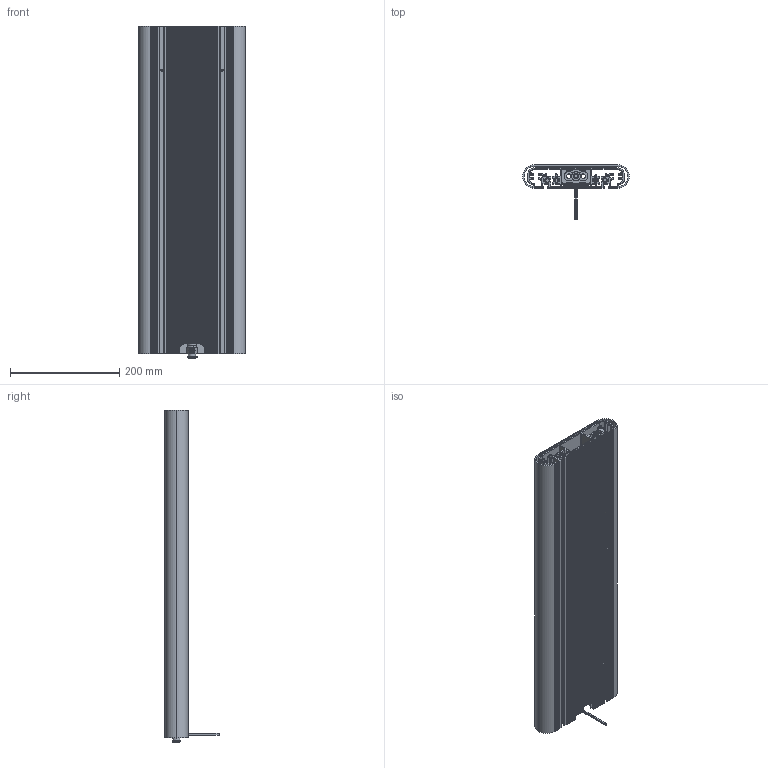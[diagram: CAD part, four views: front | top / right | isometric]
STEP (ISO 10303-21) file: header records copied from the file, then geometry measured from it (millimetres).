
FILE_DESCRIPTION (( 'STEP AP203' ), '1' );
FILE_NAME ('ATU ASSY 600 300.STEP', '2014-03-07T15:53:33', ( '' ), ( '' ), 'SwSTEP 2.0', 'SolidWorks 2014', '' );
FILE_SCHEMA (( 'CONFIG_CONTROL_DESIGN' ));
Length unit declared in the file: millimetre
Products named in the file (1): ATU ASSY 600 300
Bounding box: 194.99 x 99.06 x 608 mm (x, y, z)
Volume: 1568994.3 mm3; surface area: 1256580.4 mm2
Topology: 21 solids, 21 shells, 1164 faces, 3314 edges, 2203 vertices
Faces by surface type: cylinder 727, plane 295, cone 82, bspline 34, torus 22, sphere 4
Entity records: 45594 total; most frequent: CARTESIAN_POINT 14411, DIRECTION 6765, ORIENTED_EDGE 6604, EDGE_CURVE 3302, AXIS2_PLACEMENT_3D 2661, VERTEX_POINT 2197, CIRCLE 1530, LINE 1443
